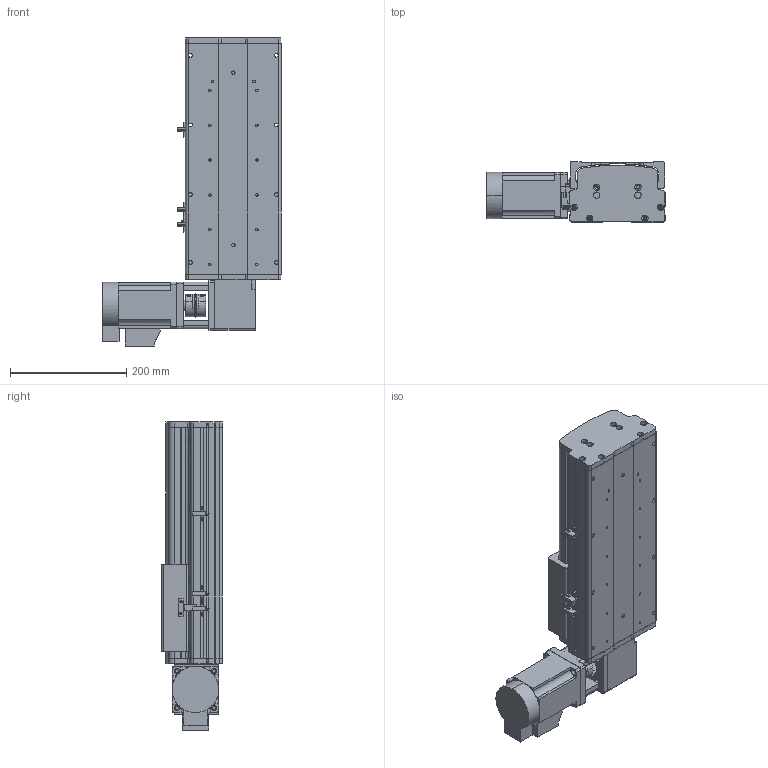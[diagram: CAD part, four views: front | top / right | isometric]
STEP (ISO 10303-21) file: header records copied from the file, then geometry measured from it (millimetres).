
FILE_DESCRIPTION (( 'STEP AP214' ), '1' );
FILE_NAME ('KSD165B-S150-MRT-CM .STEP', '2017-10-17T01:01:18', ( '微软用户' ), ( '微软中国' ), 'SwSTEP 2.0', 'SolidWorks 2014', '' );
FILE_SCHEMA (( 'AUTOMOTIVE_DESIGN' ));
Length unit declared in the file: millimetre
Products named in the file (16): 165宽安装板同步带带电机座750W; C39ㄜ1419WP; U倰嫖萇假蚾璃; U倰嫖萇EEㄜSX672; 覜茼え68遵圉猾敕; KSD165模组-同步带-防撞垫2; KSD165模组同步带-防撞垫1; KSD165耀郪-ヶ傷啣1-肮祭湍; KSD165模组-后端板1-同步带; 130宽马达安装板1-带电机座750W（1）; KSD165模组-同步带滑动座-最新版; KSD165B-S150-MRT-CM ; 165宽马达安装板同步带左-改; KSD165模组-同步带防尘盖1-150行程-最新版; KSD165模组同步带底板-150行程-最新; 拸秶雄ん750W侜督萇儂
Assembly tree (19 placements, depth 2):
  KSD165B-S150-MRT-CM 
    KSD165模组-同步带滑动座-最新版
    130宽马达安装板1-带电机座750W（1）
    KSD165模组-后端板1-同步带
    KSD165耀郪-ヶ傷啣1-肮祭湍
    KSD165模组同步带-防撞垫1
    KSD165模组-同步带-防撞垫2
    覜茼え68遵圉猾敕
    U倰嫖萇EEㄜSX672  x3
    U倰嫖萇假蚾璃  x3
    C39ㄜ1419WP
    165宽安装板同步带带电机座750W
    拸秶雄ん750W侜督萇儂
    KSD165模组同步带底板-150行程-最新
    KSD165模组-同步带防尘盖1-150行程-最新版
    165宽马达安装板同步带左-改
Bounding box: 307.5 x 104 x 531.06 mm (x, y, z)
Volume: 4048838.3 mm3; surface area: 879212.1 mm2
Topology: 20 solids, 21 shells, 1392 faces, 3846 edges, 2485 vertices
Faces by surface type: cylinder 729, plane 569, cone 94
Entity records: 43195 total; most frequent: CARTESIAN_POINT 9067, DIRECTION 6764, ORIENTED_EDGE 6344, EDGE_CURVE 3172, AXIS2_PLACEMENT_3D 2550, VERTEX_POINT 2077, VECTOR 1664, LINE 1664
